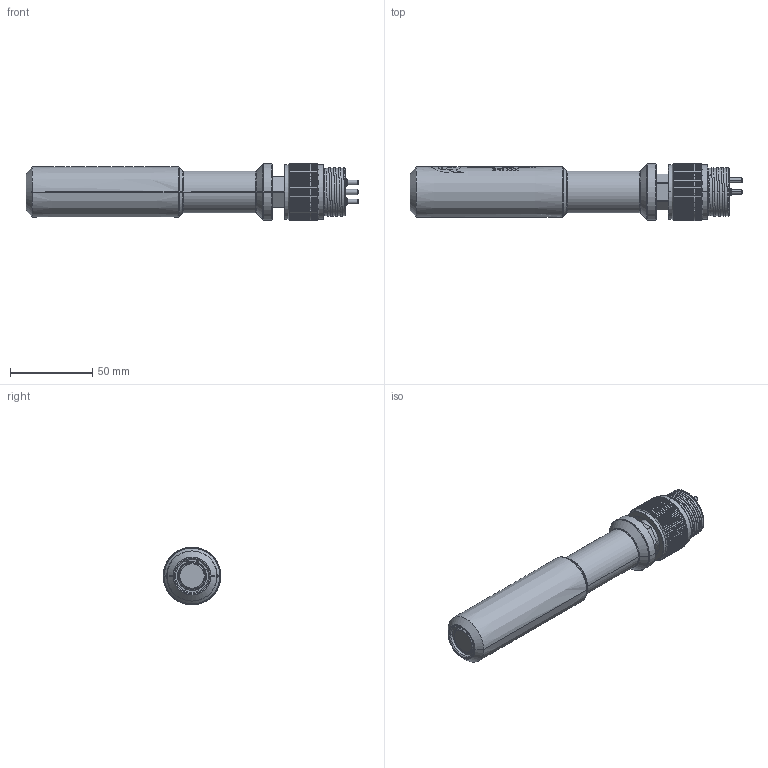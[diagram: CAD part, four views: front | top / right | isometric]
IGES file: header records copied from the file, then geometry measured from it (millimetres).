
Start section: SolidWorks IGES file using analytic representation for surfaces
Global section: file name: S:\3D_Product_Models\Lasers\SL100-BH2-0A_NO_BRKT_20190319a.IGS; native system: SolidWorks 2018; preprocessor: SolidWorks 2018; author: Jason.Buss; date: 190319.081436; units: millimetre
Bounding box: 201.68 x 34.92 x 34.92 mm (x, y, z)
Surface area: 26456.5 mm2 (no closed solid volume)
Topology: 0 solids, 0 shells, 581 faces, 12585 edges, 12585 vertices
Faces by surface type: bspline 311, revolution 270
